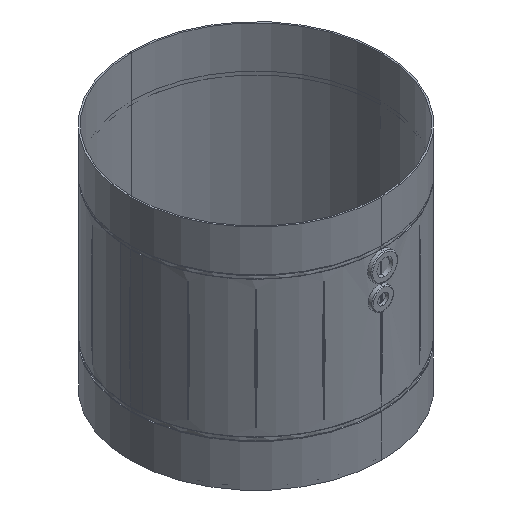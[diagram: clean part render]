
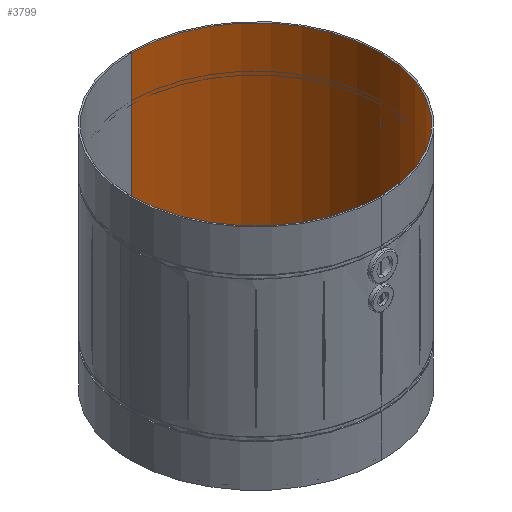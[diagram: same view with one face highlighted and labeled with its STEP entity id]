
A CAD part, isometric view. The second image highlights one B-rep face of the part: STEP entity #3799.
In plain terms, the highlighted cylindrical face has radius 73.645 mm (diameter 147.29 mm), a partial arc.
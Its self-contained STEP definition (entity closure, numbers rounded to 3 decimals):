
#287 = EDGE_CURVE ( 'NONE', #797, #5849, #1666, .T. ) ;
#458 = CARTESIAN_POINT ( 'NONE',  ( 0., -73.645, 44.691 ) ) ;
#617 = CARTESIAN_POINT ( 'NONE',  ( 0., 73.645, 175.341 ) ) ;
#794 = VECTOR ( 'NONE', #847, 1000. ) ;
#797 = VERTEX_POINT ( 'NONE', #3686 ) ;
#847 = DIRECTION ( 'NONE',  ( 0., 0., -1. ) ) ;
#911 = EDGE_CURVE ( 'NONE', #3160, #4124, #4555, .T. ) ;
#923 = VECTOR ( 'NONE', #5649, 1000. ) ;
#935 = ORIENTED_EDGE ( 'NONE', *, *, #287, .F. ) ;
#1101 = AXIS2_PLACEMENT_3D ( 'NONE', #2927, #2104, #1281 ) ;
#1281 = DIRECTION ( 'NONE',  ( 0., 1., 0. ) ) ;
#1460 = AXIS2_PLACEMENT_3D ( 'NONE', #4250, #5748, #2203 ) ;
#1491 = AXIS2_PLACEMENT_3D ( 'NONE', #3303, #2848, #2652 ) ;
#1541 = EDGE_CURVE ( 'NONE', #4124, #5849, #3740, .T. ) ;
#1666 = LINE ( 'NONE', #5610, #923 ) ;
#2104 = DIRECTION ( 'NONE',  ( 0., 0., -1. ) ) ;
#2203 = DIRECTION ( 'NONE',  ( 0., 1., 0. ) ) ;
#2652 = DIRECTION ( 'NONE',  ( 0., 1., 0. ) ) ;
#2844 = CIRCLE ( 'NONE', #1460, 73.645 ) ;
#2848 = DIRECTION ( 'NONE',  ( 0., 0., -1. ) ) ;
#2927 = CARTESIAN_POINT ( 'NONE',  ( 0., 0., 175.341 ) ) ;
#3097 = ORIENTED_EDGE ( 'NONE', *, *, #4442, .F. ) ;
#3160 = VERTEX_POINT ( 'NONE', #617 ) ;
#3303 = CARTESIAN_POINT ( 'NONE',  ( 0., 0., 44.691 ) ) ;
#3686 = CARTESIAN_POINT ( 'NONE',  ( 0., -73.645, 175.341 ) ) ;
#3740 = CIRCLE ( 'NONE', #1491, 73.645 ) ;
#3799 = ADVANCED_FACE ( 'NONE', ( #4096 ), #4024, .F. ) ;
#3894 = CARTESIAN_POINT ( 'NONE',  ( 0., 73.645, 175.341 ) ) ;
#4024 = CYLINDRICAL_SURFACE ( 'NONE', #1101, 73.645 ) ;
#4096 = FACE_OUTER_BOUND ( 'NONE', #5123, .T. ) ;
#4124 = VERTEX_POINT ( 'NONE', #5246 ) ;
#4138 = ORIENTED_EDGE ( 'NONE', *, *, #1541, .T. ) ;
#4250 = CARTESIAN_POINT ( 'NONE',  ( 0., 0., 175.341 ) ) ;
#4442 = EDGE_CURVE ( 'NONE', #3160, #797, #2844, .T. ) ;
#4555 = LINE ( 'NONE', #3894, #794 ) ;
#5028 = ORIENTED_EDGE ( 'NONE', *, *, #911, .T. ) ;
#5123 = EDGE_LOOP ( 'NONE', ( #935, #3097, #5028, #4138 ) ) ;
#5246 = CARTESIAN_POINT ( 'NONE',  ( 0., 73.645, 44.691 ) ) ;
#5610 = CARTESIAN_POINT ( 'NONE',  ( 0., -73.645, 175.341 ) ) ;
#5649 = DIRECTION ( 'NONE',  ( 0., 0., -1. ) ) ;
#5748 = DIRECTION ( 'NONE',  ( 0., 0., -1. ) ) ;
#5849 = VERTEX_POINT ( 'NONE', #458 ) ;
